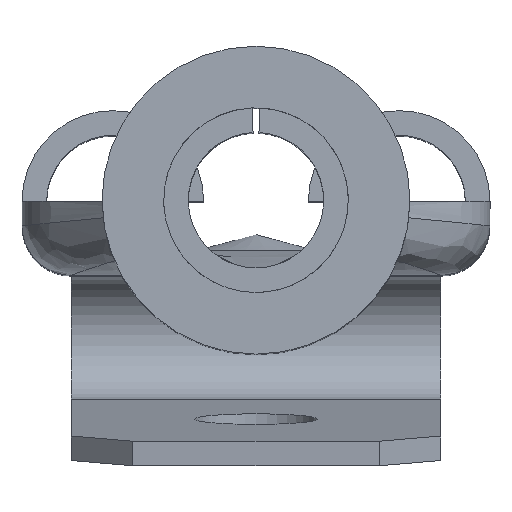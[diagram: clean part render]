
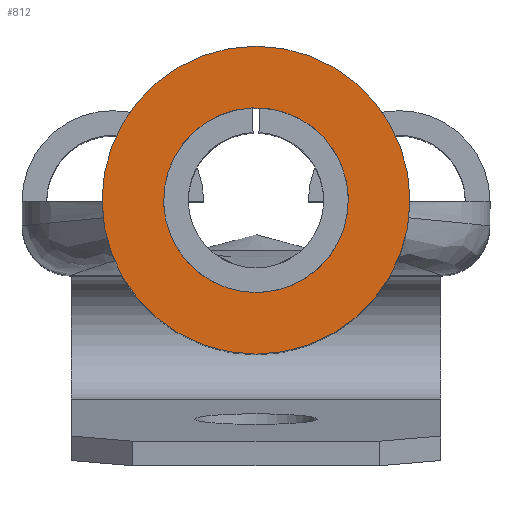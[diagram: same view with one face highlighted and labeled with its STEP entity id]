
A CAD part, top view. The second image highlights one B-rep face of the part: STEP entity #812.
In plain terms, the highlighted planar face has unit normal (0, 0, 1).
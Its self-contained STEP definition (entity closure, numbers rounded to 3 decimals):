
#711=CARTESIAN_POINT('',(-0.065,1.499,16.));
#712=VERTEX_POINT('',#711);
#713=CARTESIAN_POINT('',(0.0,0.,16.0));
#714=DIRECTION('',(0.,0.,-1.0));
#715=DIRECTION('',(0.044,0.999,0.));
#716=AXIS2_PLACEMENT_3D('',#713,#714,#715);
#717=CIRCLE('',#716,1.5);
#718=EDGE_CURVE('',#712,#712,#717,.T.);
#793=CARTESIAN_POINT('',(0.0,0.,16.0));
#794=DIRECTION('',(0.0,0.0,-1.0));
#795=DIRECTION('',(-1.0,0.0,0.0));
#796=AXIS2_PLACEMENT_3D('',#793,#794,#795);
#797=PLANE('',#796);
#798=CARTESIAN_POINT('',(2.5,0.,16.0));
#799=VERTEX_POINT('',#798);
#800=CARTESIAN_POINT('',(0.0,0.,16.0));
#801=DIRECTION('',(0.0,0.0,-1.0));
#802=DIRECTION('',(-1.0,0.0,0.0));
#803=AXIS2_PLACEMENT_3D('',#800,#801,#802);
#804=CIRCLE('',#803,2.5);
#805=EDGE_CURVE('',#799,#799,#804,.T.);
#806=ORIENTED_EDGE('',*,*,#805,.F.);
#807=EDGE_LOOP('',(#806));
#808=FACE_OUTER_BOUND('',#807,.T.);
#809=ORIENTED_EDGE('',*,*,#718,.T.);
#810=EDGE_LOOP('',(#809));
#811=FACE_BOUND('',#810,.T.);
#812=ADVANCED_FACE('',(#808,#811),#797,.F.);
